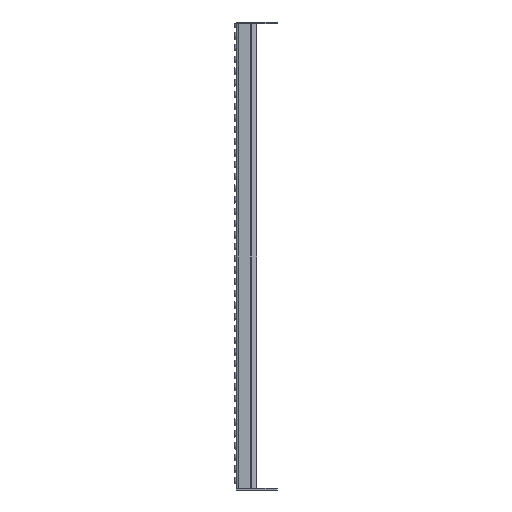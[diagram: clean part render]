
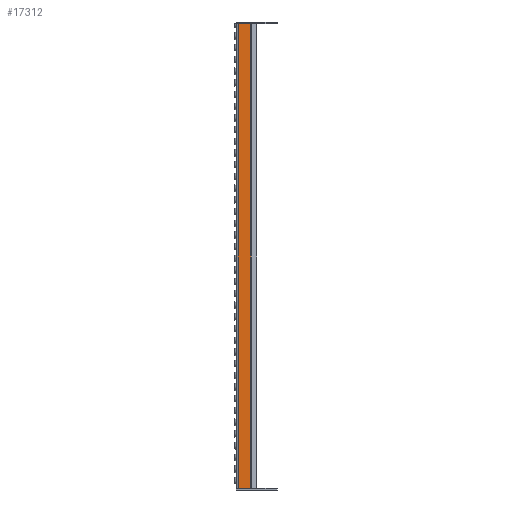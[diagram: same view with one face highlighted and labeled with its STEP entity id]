
A CAD part, left-side view. The second image highlights one B-rep face of the part: STEP entity #17312.
In plain terms, the highlighted planar face has unit normal (-1, 0, 0).
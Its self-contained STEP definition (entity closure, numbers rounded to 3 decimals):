
#2115=FACE_OUTER_BOUND('',#3334,.T.);
#3334=EDGE_LOOP('',(#14163,#14164,#14165,#14166));
#4549=LINE('',#31292,#6377);
#4560=LINE('',#31322,#6388);
#4570=LINE('',#31345,#6398);
#4577=LINE('',#31360,#6405);
#6377=VECTOR('',#22274,10.);
#6388=VECTOR('',#22299,10.);
#6398=VECTOR('',#22321,10.);
#6405=VECTOR('',#22340,10.);
#8288=VERTEX_POINT('',#31289);
#8289=VERTEX_POINT('',#31291);
#8301=VERTEX_POINT('',#31321);
#8308=VERTEX_POINT('',#31344);
#10327=EDGE_CURVE('',#8289,#8288,#4549,.T.);
#10342=EDGE_CURVE('',#8288,#8301,#4560,.T.);
#10354=EDGE_CURVE('',#8308,#8289,#4570,.T.);
#10362=EDGE_CURVE('',#8301,#8308,#4577,.T.);
#14163=ORIENTED_EDGE('',*,*,#10342,.T.);
#14164=ORIENTED_EDGE('',*,*,#10362,.T.);
#14165=ORIENTED_EDGE('',*,*,#10354,.T.);
#14166=ORIENTED_EDGE('',*,*,#10327,.T.);
#16255=PLANE('',#18871);
#17312=ADVANCED_FACE('',(#2115),#16255,.T.);
#18871=AXIS2_PLACEMENT_3D('',#31361,#22341,#22342);
#22274=DIRECTION('',(0.,1.,0.));
#22299=DIRECTION('',(0.,0.,-1.));
#22321=DIRECTION('',(0.,0.,1.));
#22340=DIRECTION('',(0.,-1.,0.));
#22341=DIRECTION('center_axis',(-1.,0.,0.));
#22342=DIRECTION('ref_axis',(0.,0.,1.));
#31289=CARTESIAN_POINT('',(0.,-3.25,794.));
#31291=CARTESIAN_POINT('',(0.,-24.427,794.));
#31292=CARTESIAN_POINT('',(0.,0.,794.));
#31321=CARTESIAN_POINT('',(0.,-3.25,0.));
#31322=CARTESIAN_POINT('',(0.,-3.25,0.));
#31344=CARTESIAN_POINT('',(0.,-24.427,0.));
#31345=CARTESIAN_POINT('',(0.,-24.427,198.5));
#31360=CARTESIAN_POINT('',(0.,0.,0.));
#31361=CARTESIAN_POINT('Origin',(0.,-25.,0.));
